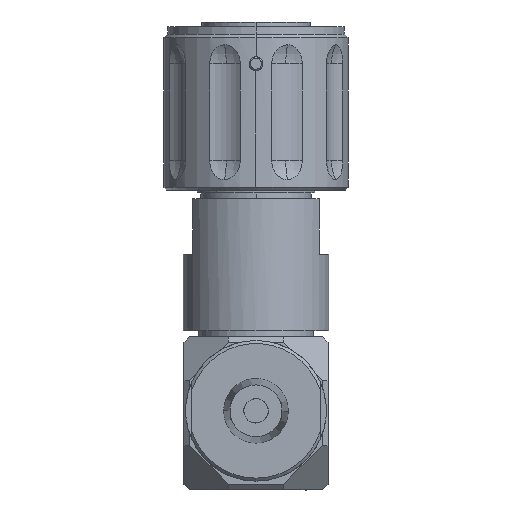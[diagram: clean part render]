
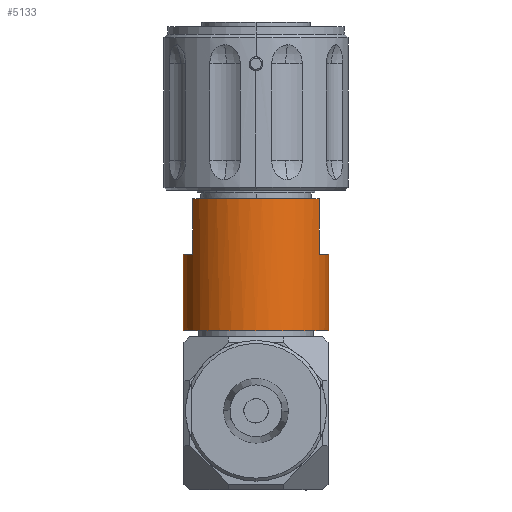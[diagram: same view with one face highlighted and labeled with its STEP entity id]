
A CAD part, front view. The second image highlights one B-rep face of the part: STEP entity #5133.
In plain terms, the highlighted cylindrical face has radius 12.509 mm (diameter 25.019 mm), a partial arc.
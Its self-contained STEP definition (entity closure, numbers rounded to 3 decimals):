
#525 = CARTESIAN_POINT ( 'NONE',  ( 12.509, 0., -39.853 ) ) ;
#605 = VECTOR ( 'NONE', #1075, 1000. ) ;
#762 = LINE ( 'NONE', #2787, #6365 ) ;
#835 = CARTESIAN_POINT ( 'NONE',  ( 0., 0., -30.328 ) ) ;
#896 = VERTEX_POINT ( 'NONE', #12604 ) ;
#967 = LINE ( 'NONE', #9289, #12701 ) ;
#978 = ORIENTED_EDGE ( 'NONE', *, *, #1977, .T. ) ;
#1069 = ORIENTED_EDGE ( 'NONE', *, *, #4439, .T. ) ;
#1074 = AXIS2_PLACEMENT_3D ( 'NONE', #835, #6901, #5780 ) ;
#1075 = DIRECTION ( 'NONE',  ( 0., 0., -1. ) ) ;
#1776 = CARTESIAN_POINT ( 'NONE',  ( 0., 0., -30.328 ) ) ;
#1977 = EDGE_CURVE ( 'NONE', #4506, #8801, #11047, .T. ) ;
#2582 = DIRECTION ( 'NONE',  ( 0., 0., -1. ) ) ;
#2787 = CARTESIAN_POINT ( 'NONE',  ( -10.858, -6.211, -30.328 ) ) ;
#2826 = CARTESIAN_POINT ( 'NONE',  ( -10.858, -6.211, -39.853 ) ) ;
#3288 = ORIENTED_EDGE ( 'NONE', *, *, #4522, .F. ) ;
#3406 = CARTESIAN_POINT ( 'NONE',  ( -12.509, 0., -53.01 ) ) ;
#3407 = EDGE_CURVE ( 'NONE', #4506, #9797, #967, .T. ) ;
#3817 = AXIS2_PLACEMENT_3D ( 'NONE', #9686, #10741, #5699 ) ;
#4318 = VERTEX_POINT ( 'NONE', #2826 ) ;
#4439 = EDGE_CURVE ( 'NONE', #896, #7255, #8004, .T. ) ;
#4506 = VERTEX_POINT ( 'NONE', #8205 ) ;
#4522 = EDGE_CURVE ( 'NONE', #12051, #9195, #12043, .T. ) ;
#4794 = AXIS2_PLACEMENT_3D ( 'NONE', #9795, #10645, #10710 ) ;
#5086 = AXIS2_PLACEMENT_3D ( 'NONE', #6699, #2582, #8562 ) ;
#5133 = ADVANCED_FACE ( 'NONE', ( #5781 ), #7839, .T. ) ;
#5316 = EDGE_LOOP ( 'NONE', ( #10960, #1069, #9954, #3288, #12910, #9333, #978, #7684 ) ) ;
#5699 = DIRECTION ( 'NONE',  ( 1., 0., 0. ) ) ;
#5780 = DIRECTION ( 'NONE',  ( 1., 0., 0. ) ) ;
#5781 = FACE_OUTER_BOUND ( 'NONE', #5316, .T. ) ;
#6132 = VECTOR ( 'NONE', #11171, 1000. ) ;
#6365 = VECTOR ( 'NONE', #13011, 1000. ) ;
#6699 = CARTESIAN_POINT ( 'NONE',  ( 0., 0., -53.01 ) ) ;
#6831 = EDGE_CURVE ( 'NONE', #9797, #12051, #8820, .T. ) ;
#6901 = DIRECTION ( 'NONE',  ( 0., 0., -1. ) ) ;
#7250 = CARTESIAN_POINT ( 'NONE',  ( 12.51, 0., -53.01 ) ) ;
#7255 = VERTEX_POINT ( 'NONE', #3406 ) ;
#7627 = CIRCLE ( 'NONE', #3817, 12.509 ) ;
#7684 = ORIENTED_EDGE ( 'NONE', *, *, #9544, .F. ) ;
#7839 = CYLINDRICAL_SURFACE ( 'NONE', #11229, 12.509 ) ;
#8004 = LINE ( 'NONE', #10242, #6132 ) ;
#8008 = CARTESIAN_POINT ( 'NONE',  ( -10.859, -6.211, -30.328 ) ) ;
#8031 = DIRECTION ( 'NONE',  ( 1., 0., 0. ) ) ;
#8205 = CARTESIAN_POINT ( 'NONE',  ( 10.858, -6.211, -30.328 ) ) ;
#8562 = DIRECTION ( 'NONE',  ( 1., 0., 0. ) ) ;
#8801 = VERTEX_POINT ( 'NONE', #8008 ) ;
#8820 = CIRCLE ( 'NONE', #4794, 12.509 ) ;
#9164 = DIRECTION ( 'NONE',  ( 0., 0., -1. ) ) ;
#9195 = VERTEX_POINT ( 'NONE', #7250 ) ;
#9289 = CARTESIAN_POINT ( 'NONE',  ( 10.858, -6.211, -30.328 ) ) ;
#9333 = ORIENTED_EDGE ( 'NONE', *, *, #3407, .F. ) ;
#9409 = EDGE_CURVE ( 'NONE', #9195, #7255, #9530, .T. ) ;
#9410 = EDGE_CURVE ( 'NONE', #896, #4318, #7627, .T. ) ;
#9503 = CARTESIAN_POINT ( 'NONE',  ( 10.858, -6.211, -39.853 ) ) ;
#9530 = CIRCLE ( 'NONE', #5086, 12.509 ) ;
#9544 = EDGE_CURVE ( 'NONE', #4318, #8801, #762, .T. ) ;
#9686 = CARTESIAN_POINT ( 'NONE',  ( 0., 0., -39.853 ) ) ;
#9795 = CARTESIAN_POINT ( 'NONE',  ( 0., 0., -39.853 ) ) ;
#9797 = VERTEX_POINT ( 'NONE', #9503 ) ;
#9954 = ORIENTED_EDGE ( 'NONE', *, *, #9409, .F. ) ;
#10242 = CARTESIAN_POINT ( 'NONE',  ( -12.51, 0., -30.328 ) ) ;
#10645 = DIRECTION ( 'NONE',  ( 0., 0., 1. ) ) ;
#10710 = DIRECTION ( 'NONE',  ( 1., 0., 0. ) ) ;
#10741 = DIRECTION ( 'NONE',  ( 0., 0., 1. ) ) ;
#10960 = ORIENTED_EDGE ( 'NONE', *, *, #9410, .F. ) ;
#11047 = CIRCLE ( 'NONE', #1074, 12.509 ) ;
#11171 = DIRECTION ( 'NONE',  ( 0., 0., -1. ) ) ;
#11229 = AXIS2_PLACEMENT_3D ( 'NONE', #1776, #13015, #8031 ) ;
#12043 = LINE ( 'NONE', #12175, #605 ) ;
#12051 = VERTEX_POINT ( 'NONE', #525 ) ;
#12175 = CARTESIAN_POINT ( 'NONE',  ( 12.509, 0., -30.328 ) ) ;
#12604 = CARTESIAN_POINT ( 'NONE',  ( -12.509, 0., -39.853 ) ) ;
#12701 = VECTOR ( 'NONE', #9164, 1000. ) ;
#12910 = ORIENTED_EDGE ( 'NONE', *, *, #6831, .F. ) ;
#13011 = DIRECTION ( 'NONE',  ( 0., 0., 1. ) ) ;
#13015 = DIRECTION ( 'NONE',  ( 0., 0., -1. ) ) ;
